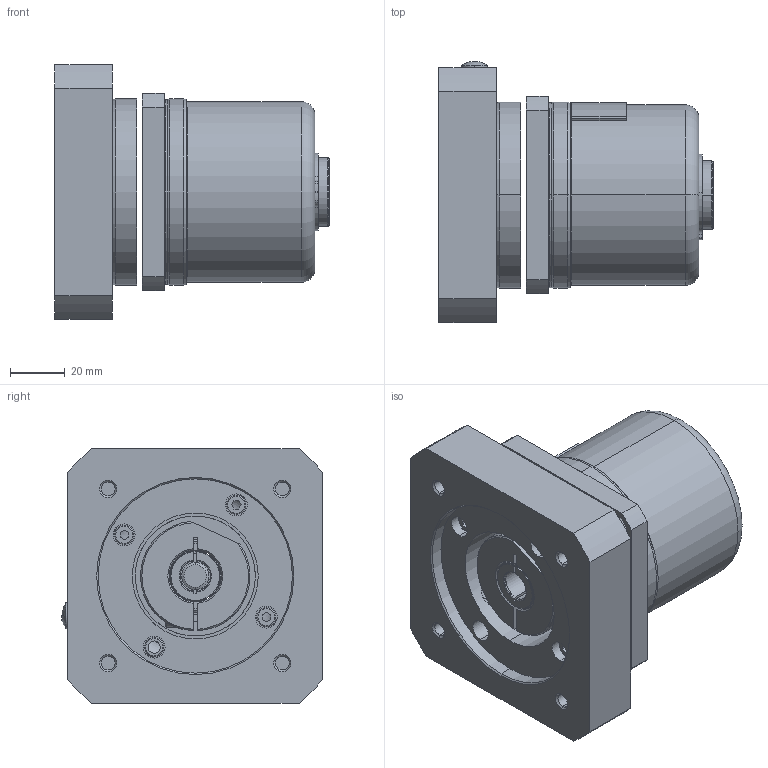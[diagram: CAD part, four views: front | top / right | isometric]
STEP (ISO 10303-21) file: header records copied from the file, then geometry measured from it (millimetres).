
FILE_DESCRIPTION (( 'STEP AP214' ), '1' );
FILE_NAME ('PL-010-0RR-FFF-MMM-F-LL-XXX-BXX-DDCC.STEP', '2019-10-24T13:28:35', ( '' ), ( '' ), 'SwSTEP 2.0', 'SolidWorks 2019', '' );
FILE_SCHEMA (( 'AUTOMOTIVE_DESIGN' ));
Length unit declared in the file: millimetre
Products named in the file (1): PL-010-0RR-FFF-MMM-F-LL-XXX-BXX-DDCC
Bounding box: 100.2 x 95.39 x 93 mm (x, y, z)
Surface area: 60838.7 mm2 (no closed solid volume)
Topology: 0 solids, 20 shells, 257 faces, 762 edges, 530 vertices
Faces by surface type: cylinder 94, plane 73, cone 52, torus 36, sphere 2
Entity records: 11926 total; most frequent: CARTESIAN_POINT 2143, DIRECTION 1546, ORIENTED_EDGE 1256, EDGE_CURVE 762, AXIS2_PLACEMENT_3D 620, VERTEX_POINT 530, CIRCLE 362, EDGE_LOOP 307
